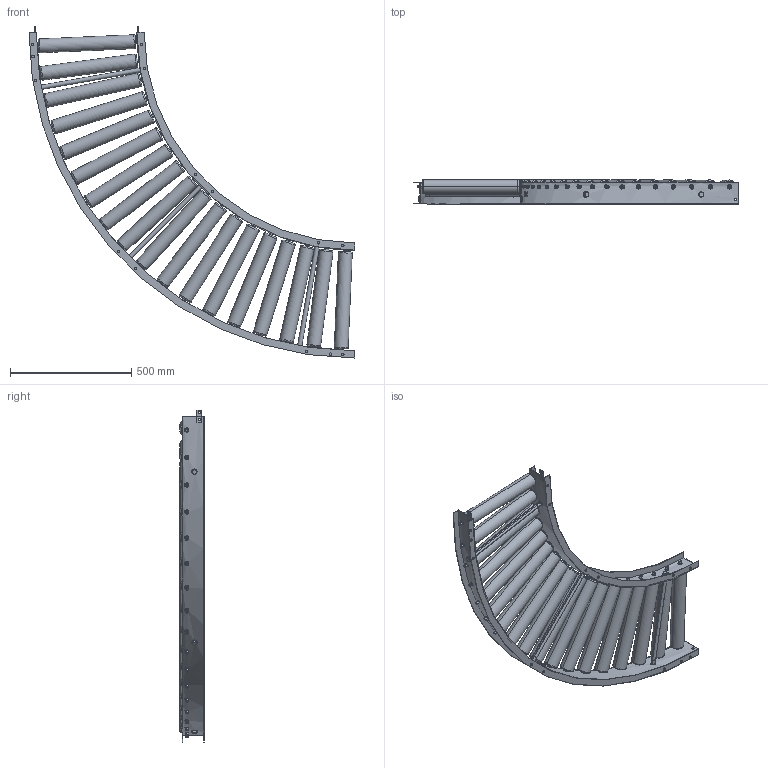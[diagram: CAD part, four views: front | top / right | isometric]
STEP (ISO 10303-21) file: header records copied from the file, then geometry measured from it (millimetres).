
FILE_DESCRIPTION (( 'STEP AP203' ), '1' );
FILE_NAME ('RZ-5714P_C.step', '2024-03-15T02:39:55', ( '' ), ( '' ), 'SwSTEP 2.0', 'SolidWorks 2023', '' );
FILE_SCHEMA (( 'CONFIG_CONTROL_DESIGN' ));
Length unit declared in the file: millimetre
Products named in the file (1): RZ-5714P_C
Bounding box: 1345 x 100.1 x 1370.08 mm (x, y, z)
Volume: 19323535.3 mm3; surface area: 3355199.9 mm2
Topology: 55 solids, 55 shells, 820 faces, 1896 edges, 1228 vertices
Faces by surface type: cylinder 406, plane 306, torus 72, cone 36
Entity records: 30605 total; most frequent: CARTESIAN_POINT 11349, DIRECTION 4102, ORIENTED_EDGE 3792, EDGE_CURVE 1896, AXIS2_PLACEMENT_3D 1701, VERTEX_POINT 1228, EDGE_LOOP 1068, CIRCLE 880
